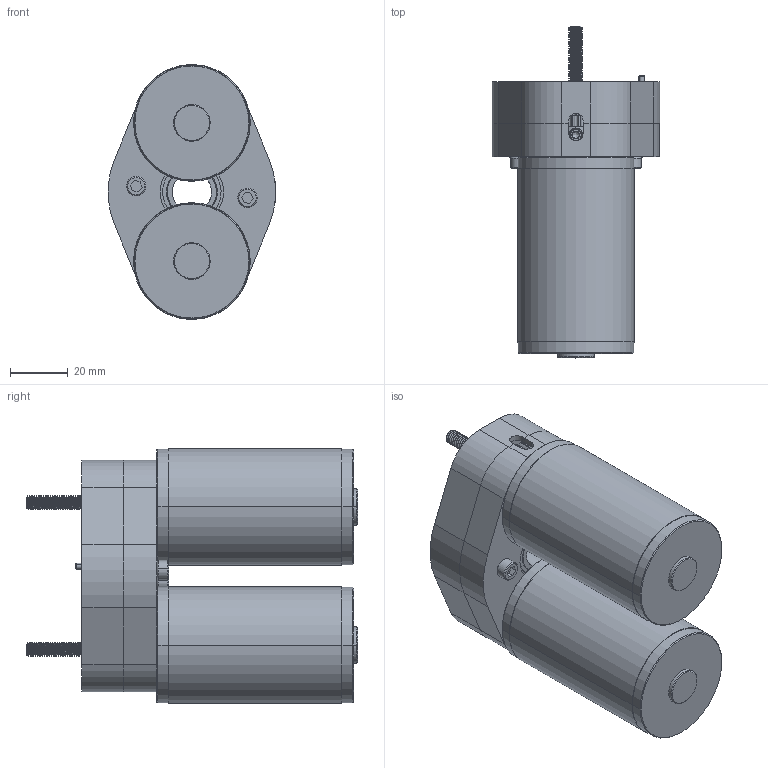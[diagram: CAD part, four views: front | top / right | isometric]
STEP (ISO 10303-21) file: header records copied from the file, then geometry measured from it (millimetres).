
FILE_DESCRIPTION (( 'STEP AP214' ), '1' );
FILE_NAME ('217-3141-BAG STEP.STEP', '2013-12-10T16:21:36', ( '' ), ( '' ), 'SwSTEP 2.0', 'SolidWorks 2013', '' );
FILE_SCHEMA (( 'AUTOMOTIVE_DESIGN' ));
Length unit declared in the file: millimetre
Products named in the file (14): SSA_SSAM4-0010ZC; 91251A346_91251A346; NUT-832-NYLOCK; SSS1032-0188-ZB; PINL-M020-006-S; 217-2741; 217-3141-006 Rev1_30T 32DP; 217-3141-007 Rev1_30T 32DP; 217-3141-001 Rev1; 217-3141-BAG STEP; 217-2625-011 Rev1; 217-3351; 217-3141-002 Rev2; SSA_SSA0832-0750ZC
Assembly tree (24 placements, depth 2):
  217-3141-BAG STEP
    217-3141-001 Rev1
    217-3141-007 Rev1_30T 32DP
    217-3141-006 Rev1_30T 32DP  x2
    217-2741  x2
    PINL-M020-006-S
    SSS1032-0188-ZB  x2
    NUT-832-NYLOCK  x2
    91251A346_91251A346  x2
    SSA_SSAM4-0010ZC  x4
    SSA_SSA0832-0750ZC  x2
    217-3141-002 Rev2
    217-3351  x2
    217-2625-011 Rev1  x2
Bounding box: 57.91 x 114.72 x 88.18 mm (x, y, z)
Volume: 217829.8 mm3; surface area: 70600.6 mm2
Topology: 24 solids, 24 shells, 1491 faces, 4018 edges, 2623 vertices
Faces by surface type: cylinder 746, plane 461, cone 130, bspline 130, torus 24
Entity records: 58330 total; most frequent: CARTESIAN_POINT 32007, ORIENTED_EDGE 5772, DIRECTION 4974, EDGE_CURVE 2886, VERTEX_POINT 1907, AXIS2_PLACEMENT_3D 1799, VECTOR 1376, LINE 1376
